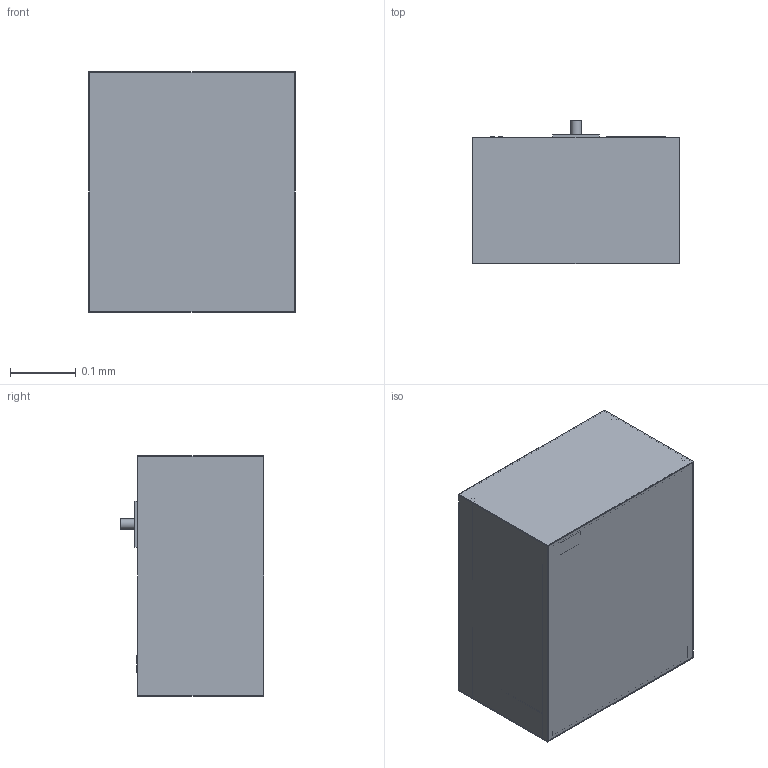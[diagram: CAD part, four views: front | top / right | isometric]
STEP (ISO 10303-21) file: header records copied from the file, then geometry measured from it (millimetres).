
FILE_DESCRIPTION(('Open CASCADE Model'),'2;1');
FILE_NAME('Open CASCADE Shape Model','2026-10-04T10:37:22',('Author'),( 'Open CASCADE'),'Open CASCADE STEP processor 7.9','Open CASCADE 7.9' ,'Unknown');
FILE_SCHEMA(('AUTOMOTIVE_DESIGN { 1 0 10303 214 1 1 1 1 }'));
Length unit declared in the file: millimetre
Products named in the file (151): MOD-bioreactor; electronics__controller_enclosure_boards_data_storage; electronics__connector_1; electronics__connector_2; sensor__glucose_lactate_flow_sensor; pump__fluid_manifold; pump__micro_pump_1; pump__micro_pump_2; pump__valve_1; pump__valve_2; pump__valve_3; pump__valve_4; pump__valve_5; pump__valve_6; pump__valve_7; pump__valve_8; pump__manifold_inlet; pump__manifold_outlet; fluid__silicone_membrane_gas_exchanger; fluid__bubble_trap; fluid__gas_exchanger_inlet; experiment__chamber_manifold_plate; experiment__cold_pad_1; sample__perfusion_chamber_1; sample__scaffold_with_construct_1; sample__chamber_cap_1; experiment__cold_pad_3; sample__perfusion_chamber_3; sample__scaffold_with_construct_3; sample__chamber_cap_3; experiment__cold_pad_2; sample__perfusion_chamber_2; sample__scaffold_with_construct_2; sample__chamber_cap_2; experiment__cold_pad_4; sample__perfusion_chamber_4; sample__scaffold_with_construct_4; sample__chamber_cap_4; experiment__camera_post; experiment__camera_arm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
Assembly tree (150 placements, depth 2):
  MOD-bioreactor
    electronics__controller_enclosure_boards_data_storage
    electronics__connector_1
    electronics__connector_2
    sensor__glucose_lactate_flow_sensor
    pump__fluid_manifold
    pump__micro_pump_1
    pump__micro_pump_2
    pump__valve_1
    pump__valve_2
    pump__valve_3
    pump__valve_4
    pump__valve_5
    pump__valve_6
    pump__valve_7
    pump__valve_8
    pump__manifold_inlet
    pump__manifold_outlet
    fluid__silicone_membrane_gas_exchanger
    fluid__bubble_trap
    fluid__gas_exchanger_inlet
    experiment__chamber_manifold_plate
    experiment__cold_pad_1
    sample__perfusion_chamber_1
    sample__scaffold_with_construct_1
    sample__chamber_cap_1
    experiment__cold_pad_3
    sample__perfusion_chamber_3
    sample__scaffold_with_construct_3
    sample__chamber_cap_3
    experiment__cold_pad_2
    sample__perfusion_chamber_2
    sample__scaffold_with_construct_2
    sample__chamber_cap_2
    experiment__cold_pad_4
    sample__perfusion_chamber_4
    sample__scaffold_with_construct_4
    sample__chamber_cap_4
    experiment__camera_post
    experiment__camera_arm
    experiment__camera_arm_to_centre
    imaging__compact_camera_brightfield_and_fluorescence
    experiment__LED_ring
    experiment__manifold_port_1
    experiment__manifold_port_2
    fluid__Medium_250_mL
    fluid__Medium_port
    fluid__Fixative_87_mL
    fluid__Fixative_port
    fluid__RNA_stabilizer_87_mL
    fluid__RNA_stabilizer_port
    fluid__rinse_buffer_87_mL
    fluid__rinse_buffer_port
    fluid__waste_bag_empty_at_launch_338_mL_capacity_under_the_reagent_
bags
    fluid__waste_bag_port
    store__insulated_aliquot_pocket
    store__pocket_cold_plate
    sensor__optical_O2_pH_reader
    sensor__reader_fibre_1
    sensor__reader_fibre_2
Bounding box: 0.31 x 0.22 x 0.37 mm (x, y, z)
Volume: 0 mm3; surface area: 1.8 mm2
Topology: 151 solids, 155 shells, 593 faces, 846 edges, 564 vertices
Faces by surface type: plane 451, cylinder 142
Full cylindrical faces by diameter (mm): 0.003 x58, 0.005 x26, 0.006 x4, 0.009 x8, 0.012 x2, 0.016 x2, 0.02 x2, 0.022 x4, 0.024 x1, 0.03 x4, 0.035 x4, 0.038 x4, 0.04 x1, 0.042 x1, 0.052 x1
Entity records: 27395 total; most frequent: DIRECTION 4290, CARTESIAN_POINT 3966, LINE 1970, VECTOR 1970, ORIENTED_EDGE 1692, PCURVE 1692, DEFINITIONAL_REPRESENTATION 1692, AXIS2_PLACEMENT_3D 1028
